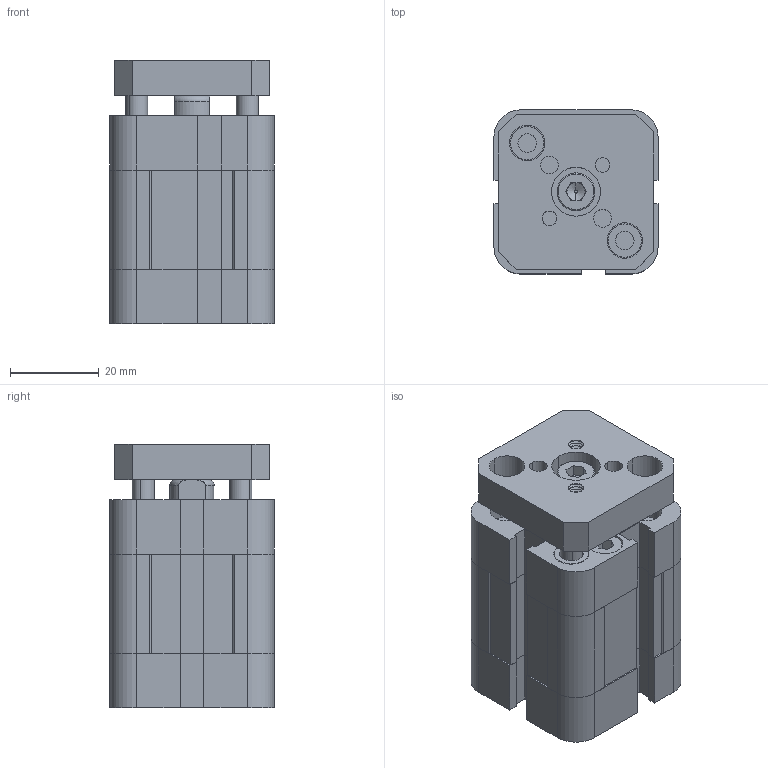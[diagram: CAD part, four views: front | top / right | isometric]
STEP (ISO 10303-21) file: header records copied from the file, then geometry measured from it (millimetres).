
FILE_DESCRIPTION (( 'STEP AP203' ), '1' );
FILE_NAME ('NSKI020.0010 F AR.STEP', '2010-06-11T13:58:38', ( 'Vesta Automation srl' ), ( 'Vesta Automation srl' ), 'SwSTEP 2.0', 'SolidWorks 2009', '' );
FILE_SCHEMA (( 'CONFIG_CONTROL_DESIGN' ));
Length unit declared in the file: millimetre
Products named in the file (7): BARREL-NSKI20AR_STROKE 0010; REAR END CAP-NSKI 20; NSKI020.0010 F AR; FRONT END CAP-NSKI 20 AR; ANTI ROTATION PLATE-NSKI20AR; PISTON ROD-NSKI 020 F AR_STROKE 0010; ANTI ROTATION STEEM-NSKI20AR_STROKE 0010
Assembly tree (7 placements, depth 2):
  NSKI020.0010 F AR
    ANTI ROTATION STEEM-NSKI20AR_STROKE 0010  x2
    ANTI ROTATION PLATE-NSKI20AR
    FRONT END CAP-NSKI 20 AR
    BARREL-NSKI20AR_STROKE 0010
    PISTON ROD-NSKI 020 F AR_STROKE 0010
    REAR END CAP-NSKI 20
Bounding box: 37 x 37 x 59.5 mm (x, y, z)
Volume: 60090.1 mm3; surface area: 29400.4 mm2
Topology: 8 solids, 8 shells, 659 faces, 1592 edges, 989 vertices
Faces by surface type: plane 318, cone 201, cylinder 136, torus 4
Entity records: 19760 total; most frequent: DIRECTION 3373, CARTESIAN_POINT 3311, ORIENTED_EDGE 3164, EDGE_CURVE 1582, AXIS2_PLACEMENT_3D 1135, LINE 1103, VECTOR 1103, VERTEX_POINT 983
